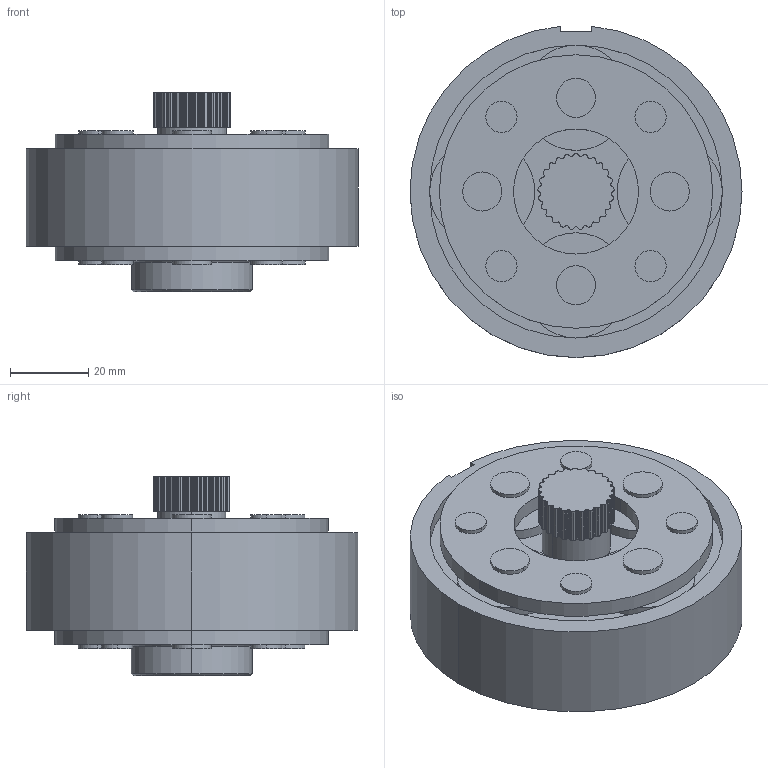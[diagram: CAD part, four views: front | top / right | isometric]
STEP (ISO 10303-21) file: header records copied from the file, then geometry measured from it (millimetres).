
FILE_DESCRIPTION (( 'STEP AP203' ), '1' );
FILE_NAME ('LGU85-4MGE.step', '2021-07-23T02:29:34', ( '' ), ( '' ), 'SwSTEP 2.0', 'SolidWorks 2021', '' );
FILE_SCHEMA (( 'CONFIG_CONTROL_DESIGN' ));
Length unit declared in the file: millimetre
Products named in the file (1): LGU85-4MGE
Bounding box: 85 x 84.81 x 51.15 mm (x, y, z)
Volume: 158836.7 mm3; surface area: 38876.6 mm2
Topology: 1 solids, 1 shells, 515 faces, 1436 edges, 956 vertices
Faces by surface type: cylinder 473, plane 38, cone 2, torus 2
Entity records: 17219 total; most frequent: DIRECTION 3420, CARTESIAN_POINT 2908, ORIENTED_EDGE 2872, AXIS2_PLACEMENT_3D 1468, EDGE_CURVE 1436, VERTEX_POINT 956, CIRCLE 952, EDGE_LOOP 564
